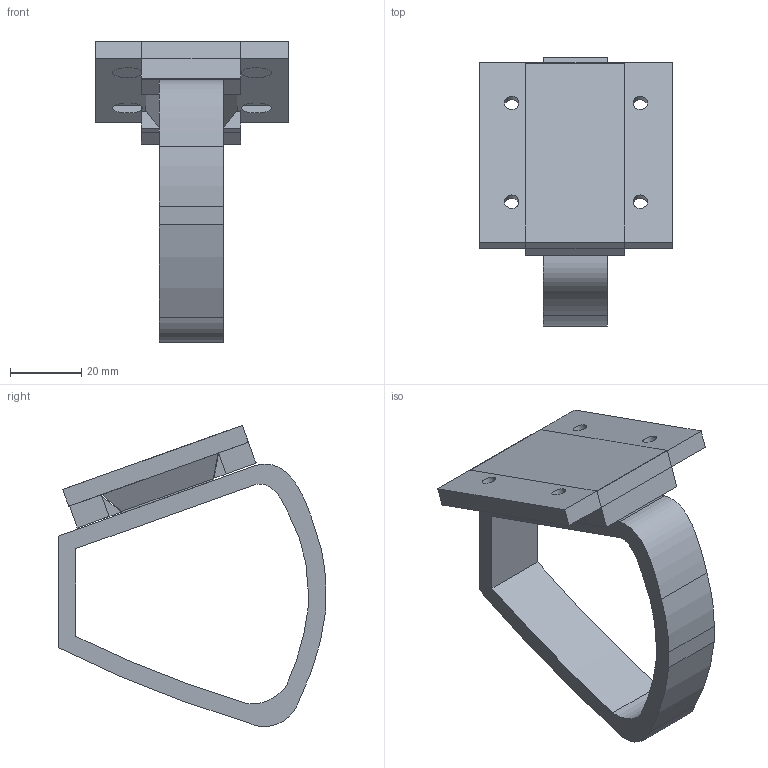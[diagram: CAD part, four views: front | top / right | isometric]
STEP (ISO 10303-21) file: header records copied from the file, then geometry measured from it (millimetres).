
FILE_DESCRIPTION(/* description */ (''),/* implementation_level */ '2;1');
FILE_NAME(/* name */ 'ComputerSpeakerBracket Left.step',/* time_stamp */ '2025-07-26T11:22:17-04:00',/* author */ (''),/* organization */ (''),/* preprocessor_version */ 'ST-DEVELOPER v20.1',/* originating_system */ 'Autodesk Translation Framework v14.10.0.0',/* authorisation */ '');
FILE_SCHEMA (('AUTOMOTIVE_DESIGN { 1 0 10303 214 3 1 1 }'));
Length unit declared in the file: millimetre
Products named in the file (7): ComputerSpeakerBracket Left; RightBracket; Base; SlideInsert; Insert; SlideHolder; Base (1)
Assembly tree (6 placements, depth 3):
  ComputerSpeakerBracket Left
    RightBracket
    Base
    SlideInsert
      Insert
    SlideHolder
      Base (1)
Bounding box: 54 x 75 x 84.31 mm (x, y, z)
Volume: 64895 mm3; surface area: 34147.4 mm2
Topology: 6 solids, 6 shells, 79 faces, 197 edges, 130 vertices
Faces by surface type: plane 61, cylinder 12, cone 4, bspline 2
Full cylindrical faces by diameter (mm): 4 x4
Entity records: 2608 total; most frequent: CARTESIAN_POINT 509, DIRECTION 405, ORIENTED_EDGE 394, EDGE_CURVE 197, LINE 161, VECTOR 161, VERTEX_POINT 130, AXIS2_PLACEMENT_3D 122
